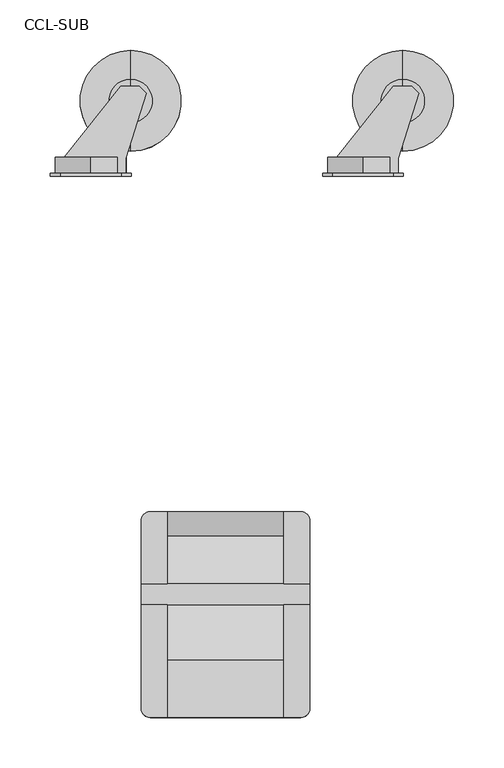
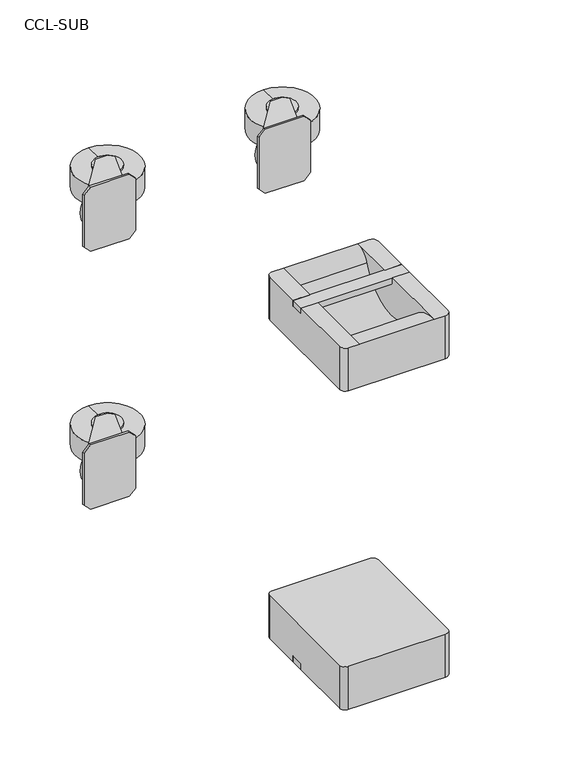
"""IFC4 building model written with IfcOpenShell, lengths in millimetres: proxy geometry, d&b CL-Series CCL-SUB : CCL-SUB."""

from ifc_helpers import new_model, si_unit, frame, origin, place, context, project, spatial, polyline, circle_curve, outline, extrude, source, transform, mapped, element, save
from ifc_brep_helpers import plane_surface, cylinder_surface, revolved_surface, advanced_brep


def ccl_sub_53e2f06a(model_context):
    return source(origin(), model_context, "Body", "SolidModel", [
        advanced_brep(
        [(2365.000038, 668.4505973, 595.3228617), (2391.3818499, 668.4505973, 583.3228617), (2338.9218509, 668.4505973, 583.3228617), (2338.9218509, 668.4505973, 580.3228617), (2393.7228512, 668.4505973, 580.3228617), (2393.7228512, 668.4505973, 540.3228617), (2338.9218509, 668.4505973, 540.3228617), (2338.9218509, 668.4505973, 537.3228617), (2391.3818499, 668.4505973, 537.3228617), (2365.000038, 668.4505973, 525.3228617), (2365.000038, 652.4505973, 525.3228617), (2391.3818499, 652.4505973, 537.3228617), (2399.82476, 652.4505973, 537.3228617), (2399.82476, 652.4505973, 540.3228617), (2393.7228512, 652.4505973, 540.3228617), (2393.7228512, 652.4505973, 580.3228617), (2399.82476, 652.4505973, 580.3228617), (2399.82476, 652.4505973, 583.3228617), (2391.3818499, 652.4505973, 583.3228617), (2365.000038, 652.4505973, 595.3228617), (2399.82476, 667.1505973, 583.3228617), (2420.000038, 731.6505973, 583.3228617), (2413.000038, 738.6505973, 583.3228617), (2394.8735756, 738.6505973, 583.3228617), (2394.8735756, 738.6505973, 580.3228617), (2413.000038, 738.6505973, 580.3228617), (2420.000038, 731.6505973, 580.3228617), (2399.82476, 667.1505973, 580.3228617), (2394.8735756, 738.6505973, 537.3228617), (2413.000038, 738.6505973, 537.3228617), (2420.000038, 731.6505973, 537.3228617), (2399.82476, 667.1505973, 537.3228617), (2399.82476, 667.1505973, 540.3228617), (2420.000038, 731.6505973, 540.3228617), (2413.000038, 738.6505973, 540.3228617), (2394.8735756, 738.6505973, 540.3228617)],
        [
            (0, 1, circle_curve(frame((2365.000038, 668.4505973, 560.3228617), z_axis=(0.0, 1.0, 0.0), x_axis=(0.0, 0.0, 1.0)), 35.0)),
            (1, 2),
            (2, 3),
            (3, 4),
            (4, 5, circle_curve(frame((2365.000038, 668.4505973, 560.3228617), z_axis=(0.0, 1.0, 0.0), x_axis=(0.0, 0.0, 1.0)), 35.0)),
            (5, 6),
            (6, 7),
            (7, 8),
            (8, 9, circle_curve(frame((2365.000038, 668.4505973, 560.3228617), z_axis=(0.0, 1.0, 0.0), x_axis=(0.0, 0.0, 1.0)), 35.0)),
            (9, 0, circle_curve(frame((2365.000038, 668.4505973, 560.3228617), z_axis=(0.0, 1.0, 0.0), x_axis=(0.0, 0.0, 1.0)), 35.0)),
            (10, 11, circle_curve(frame((2365.000038, 652.4505973, 560.3228617), z_axis=(0.0, -1.0, 0.0), x_axis=(0.0, 0.0, 1.0)), 35.0)),
            (11, 12),
            (12, 13),
            (13, 14),
            (14, 15, circle_curve(frame((2365.000038, 652.4505973, 560.3228617), z_axis=(0.0, -1.0, 0.0), x_axis=(0.0, 0.0, 1.0)), 35.0)),
            (15, 16),
            (16, 17),
            (17, 18),
            (18, 19, circle_curve(frame((2365.000038, 652.4505973, 560.3228617), z_axis=(0.0, -1.0, 0.0), x_axis=(0.0, 0.0, 1.0)), 35.0)),
            (19, 10, circle_curve(frame((2365.000038, 652.4505973, 560.3228617), z_axis=(0.0, -1.0, 0.0), x_axis=(0.0, 0.0, 1.0)), 35.0)),
            (8, 11),
            (10, 9),
            (14, 5),
            (4, 15),
            (18, 1),
            (0, 19),
            (17, 20),
            (20, 21),
            (21, 22),
            (22, 23),
            (23, 2),
            (3, 24),
            (24, 25),
            (25, 26),
            (26, 27),
            (27, 16),
            (23, 24),
            (22, 25),
            (21, 26),
            (20, 27),
            (7, 28),
            (28, 29),
            (29, 30),
            (30, 31),
            (31, 12),
            (13, 32),
            (32, 33),
            (33, 34),
            (34, 35),
            (35, 6),
            (35, 28),
            (34, 29),
            (33, 30),
            (32, 31),
        ],
        [
            plane_surface(frame((2365.000038, 668.4505973, 595.3228617), z_axis=(0.0, 1.0, 0.0), x_axis=(-1.0, 0.0, 0.0))),
            plane_surface(frame((2365.000038, 652.4505973, 595.3228617), z_axis=(0.0, -1.0, 0.0), x_axis=(1.0, 0.0, 0.0))),
            cylinder_surface(frame((2365.000038, 652.4505973, 560.3228617), z_axis=(0.0, 1.0, 0.0), x_axis=(0.0, 0.0, 1.0)), 35.0),
            plane_surface(frame((2381.8577772, 722.3202866, 583.3228617), z_axis=(0.0, 0.0, 1.0000000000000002), x_axis=(0.6232793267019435, 0.7819992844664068, 0.0))),
            plane_surface(frame((2381.8577772, 722.3202866, 580.3228617), z_axis=(0.0, 0.0, -1.0000000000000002), x_axis=(-0.6232793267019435, -0.7819992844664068, 0.0))),
            plane_surface(frame((2338.9218509, 668.4505973, 583.3228617), z_axis=(-0.7819992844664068, 0.6232793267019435, 0.0), x_axis=(0.0, 0.0, -1.0))),
            plane_surface(frame((2394.8735756, 738.6505973, 583.3228617), z_axis=(0.0, 1.0, 0.0), x_axis=(0.0, 0.0, -1.0))),
            plane_surface(frame((2413.000038, 738.6505973, 583.3228617), z_axis=(0.7071067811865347, 0.7071067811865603, 0.0), x_axis=(0.0, 0.0, -1.0))),
            plane_surface(frame((2420.000038, 731.6505973, 583.3228617), z_axis=(0.9543997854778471, -0.29853148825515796, 0.0), x_axis=(0.0, 0.0, -1.0))),
            plane_surface(frame((2399.82476, 667.1505973, 583.3228617), z_axis=(1.0, 0.0, 0.0), x_axis=(0.0, 0.0, -1.0))),
            plane_surface(frame((2338.9218509, 668.4505973, 537.3228617), z_axis=(0.0, 0.0, -1.0), x_axis=(0.0, -1.0, 0.0))),
            plane_surface(frame((2338.9218509, 668.4505973, 540.3228617), z_axis=(0.0, 0.0, 1.0), x_axis=(0.0, 1.0, 0.0))),
            plane_surface(frame((2394.8735756, 738.6505973, 537.3228617), z_axis=(-0.7819992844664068, 0.6232793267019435, 0.0), x_axis=(0.0, 0.0, 1.0))),
            plane_surface(frame((2413.000038, 738.6505973, 537.3228617), z_axis=(0.0, 1.0, 0.0), x_axis=(0.0, 0.0, 1.0))),
            plane_surface(frame((2420.000038, 731.6505973, 537.3228617), z_axis=(0.7071067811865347, 0.7071067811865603, 0.0), x_axis=(0.0, 0.0, 1.0))),
            plane_surface(frame((2399.82476, 667.1505973, 537.3228617), z_axis=(0.9543997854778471, -0.29853148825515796, 0.0), x_axis=(0.0, 0.0, 1.0))),
            plane_surface(frame((2399.82476, 652.4505973, 537.3228617), z_axis=(1.0, 0.0, 0.0), x_axis=(0.0, 0.0, 1.0))),
        ],
        [
            (0, [[1, 2, 3, 4, 5, 6, 7, 8, 9, 10]]),
            (1, [[11, 12, 13, 14, 15, 16, 17, 18, 19, 20]]),
            (2, [[-9, 21, -11, 22]]),
            (2, [[-15, 23, -5, 24]]),
            (2, [[-19, 25, -1, 26]]),
            (2, [[-22, -20, -26, -10]]),
            (3, [[-2, -25, -18, 27, 28, 29, 30, 31]]),
            (4, [[-16, -24, -4, 32, 33, 34, 35, 36]]),
            (5, [[37, -32, -3, -31]]),
            (6, [[38, -33, -37, -30]]),
            (7, [[39, -34, -38, -29]]),
            (8, [[40, -35, -39, -28]]),
            (9, [[-17, -36, -40, -27]]),
            (10, [[-12, -21, -8, 41, 42, 43, 44, 45]]),
            (11, [[-6, -23, -14, 46, 47, 48, 49, 50]]),
            (12, [[-7, -50, 51, -41]]),
            (13, [[-51, -49, 52, -42]]),
            (14, [[-52, -48, 53, -43]]),
            (15, [[-53, -47, 54, -44]]),
            (16, [[-54, -46, -13, -45]]),
        ],
    ),
        extrude(outline(polyline([(517.8228997, 2325.0), (507.8228617, 2335.000038), (507.8228617, 2395.000038), (517.8228997, 2405.000076), (602.8228237, 2405.000076), (612.8228617, 2395.000038), (612.8228617, 2335.000038), (602.8228237, 2325.0), (517.8228997, 2325.0)])), frame((0.0, 649.4505973, 0.0), z_axis=(0.0, 1.0, 0.0), x_axis=(0.0, 0.0, 1.0)), (0.0, 0.0, 1.0), 3.0),
        advanced_brep(
        [(2404.5321133, 674.1067763, 576.9996195), (2404.5321133, 674.1067763, 543.6461039), (2404.5321133, 774.1067763, 543.6461039), (2404.5321133, 774.1067763, 576.9996195), (2404.5321133, 702.693179, 576.9996195), (2404.5321133, 745.5203735, 576.9996195), (2404.5321133, 702.693179, 580.3228617), (2404.5321133, 745.5203735, 580.3228617), (2404.5321133, 724.1067763, 580.3228617), (2404.5321133, 702.693179, 540.3228617), (2404.5321133, 724.1067763, 540.3228617), (2404.5321133, 745.5203735, 540.3228617), (2404.5321133, 702.693179, 543.6461039), (2404.5321133, 745.5203735, 543.6461039)],
        [
            (0, 1),
            (1, 2, circle_curve(frame((2404.5321133, 724.1067763, 543.6461039), z_axis=(0.0, 0.0, 1.0), x_axis=(0.0, 1.0, 0.0)), 50.0)),
            (2, 3),
            (3, 0, circle_curve(frame((2404.5321133, 724.1067763, 576.9996195), z_axis=(0.0, 0.0, -1.0), x_axis=(0.0, 1.0, 0.0)), 50.0)),
            (2, 1, circle_curve(frame((2404.5321133, 724.1067763, 543.6461039), z_axis=(0.0, 0.0, 1.0), x_axis=(0.0, 1.0, 0.0)), 50.0)),
            (0, 3, circle_curve(frame((2404.5321133, 724.1067763, 576.9996195), z_axis=(0.0, 0.0, -1.0), x_axis=(0.0, 1.0, 0.0)), 50.0)),
            (4, 0),
            (3, 5),
            (5, 4, circle_curve(frame((2404.5321133, 724.1067763, 576.9996195), z_axis=(0.0, 0.0, -1.0), x_axis=(0.0, 1.0, 0.0)), 21.4135972)),
            (4, 5, circle_curve(frame((2404.5321133, 724.1067763, 576.9996195), z_axis=(0.0, 0.0, -1.0), x_axis=(0.0, 1.0, 0.0)), 21.4135972)),
            (6, 4),
            (5, 7),
            (7, 6, circle_curve(frame((2404.5321133, 724.1067763, 580.3228617), z_axis=(0.0, 0.0, -1.0), x_axis=(0.0, 1.0, 0.0)), 21.4135972)),
            (6, 7, circle_curve(frame((2404.5321133, 724.1067763, 580.3228617), z_axis=(0.0, 0.0, -1.0), x_axis=(0.0, 1.0, 0.0)), 21.4135972)),
            (8, 6),
            (7, 8),
            (9, 10),
            (10, 11),
            (11, 9, circle_curve(frame((2404.5321133, 724.1067763, 540.3228617), z_axis=(0.0, 0.0, -1.0), x_axis=(0.0, 1.0, 0.0)), 21.4135972)),
            (9, 11, circle_curve(frame((2404.5321133, 724.1067763, 540.3228617), z_axis=(0.0, 0.0, -1.0), x_axis=(0.0, 1.0, 0.0)), 21.4135972)),
            (12, 9),
            (11, 13),
            (13, 12, circle_curve(frame((2404.5321133, 724.1067763, 543.6461039), z_axis=(0.0, 0.0, -1.0), x_axis=(0.0, 1.0, 0.0)), 21.4135972)),
            (12, 13, circle_curve(frame((2404.5321133, 724.1067763, 543.6461039), z_axis=(0.0, 0.0, -1.0), x_axis=(0.0, 1.0, 0.0)), 21.4135972)),
            (1, 12),
            (13, 2),
        ],
        [
            cylinder_surface(frame((2404.5321133, 724.1067763, 603.2661159), z_axis=(0.0, 0.0, 1.0), x_axis=(0.0, 1.0, 0.0)), 50.0),
            plane_surface(frame((2404.5321133, 724.1067763, 576.9996195), z_axis=(0.0, 0.0, 1.0), x_axis=(0.0, 1.0, 0.0))),
            cylinder_surface(frame((2404.5321133, 724.1067763, 603.2661159), z_axis=(0.0, 0.0, 1.0), x_axis=(0.0, 1.0, 0.0)), 21.4135972),
            plane_surface(frame((2404.5321133, 724.1067763, 580.3228617), z_axis=(0.0, 0.0, 1.0), x_axis=(0.0, 1.0, 0.0))),
            plane_surface(frame((2404.5321133, 724.1067763, 540.3228617), z_axis=(0.0, 0.0, -1.0), x_axis=(0.0, 1.0, 0.0))),
            plane_surface(frame((2404.5321133, 724.1067763, 543.6461039), z_axis=(0.0, 0.0, -1.0), x_axis=(0.0, 1.0, 0.0))),
        ],
        [
            (0, [[1, 2, 3, 4]]),
            (0, [[-3, 5, -1, 6]]),
            (1, [[7, -4, 8, 9]]),
            (1, [[-8, -6, -7, 10]]),
            (2, [[11, -9, 12, 13]]),
            (2, [[-12, -10, -11, 14]]),
            (3, [[15, -13, 16]]),
            (3, [[-16, -14, -15]]),
            (4, [[17, 18, 19]]),
            (4, [[-18, -17, 20]]),
            (2, [[21, -19, 22, 23]]),
            (2, [[-22, -20, -21, 24]]),
            (5, [[25, -23, 26, -2]]),
            (5, [[-26, -24, -25, -5]]),
        ],
    ),
        advanced_brep(
        [(2635.000038, 668.4505973, 595.3228617), (2661.3818499, 668.4505973, 583.3228617), (2608.9218509, 668.4505973, 583.3228617), (2608.9218509, 668.4505973, 580.3228617), (2663.7228512, 668.4505973, 580.3228617), (2663.7228512, 668.4505973, 540.3228617), (2608.9218509, 668.4505973, 540.3228617), (2608.9218509, 668.4505973, 537.3228617), (2661.3818499, 668.4505973, 537.3228617), (2635.000038, 668.4505973, 525.3228617), (2635.000038, 652.4505973, 525.3228617), (2661.3818499, 652.4505973, 537.3228617), (2669.82476, 652.4505973, 537.3228617), (2669.82476, 652.4505973, 540.3228617), (2663.7228512, 652.4505973, 540.3228617), (2663.7228512, 652.4505973, 580.3228617), (2669.82476, 652.4505973, 580.3228617), (2669.82476, 652.4505973, 583.3228617), (2661.3818499, 652.4505973, 583.3228617), (2635.000038, 652.4505973, 595.3228617), (2669.82476, 667.1505973, 583.3228617), (2690.000038, 731.6505973, 583.3228617), (2683.000038, 738.6505973, 583.3228617), (2664.8735756, 738.6505973, 583.3228617), (2664.8735756, 738.6505973, 580.3228617), (2683.000038, 738.6505973, 580.3228617), (2690.000038, 731.6505973, 580.3228617), (2669.82476, 667.1505973, 580.3228617), (2664.8735756, 738.6505973, 537.3228617), (2683.000038, 738.6505973, 537.3228617), (2690.000038, 731.6505973, 537.3228617), (2669.82476, 667.1505973, 537.3228617), (2669.82476, 667.1505973, 540.3228617), (2690.000038, 731.6505973, 540.3228617), (2683.000038, 738.6505973, 540.3228617), (2664.8735756, 738.6505973, 540.3228617)],
        [
            (0, 1, circle_curve(frame((2635.000038, 668.4505973, 560.3228617), z_axis=(0.0, 1.0, 0.0), x_axis=(0.0, 0.0, 1.0)), 35.0)),
            (1, 2),
            (2, 3),
            (3, 4),
            (4, 5, circle_curve(frame((2635.000038, 668.4505973, 560.3228617), z_axis=(0.0, 1.0, 0.0), x_axis=(0.0, 0.0, 1.0)), 35.0)),
            (5, 6),
            (6, 7),
            (7, 8),
            (8, 9, circle_curve(frame((2635.000038, 668.4505973, 560.3228617), z_axis=(0.0, 1.0, 0.0), x_axis=(0.0, 0.0, 1.0)), 35.0)),
            (9, 0, circle_curve(frame((2635.000038, 668.4505973, 560.3228617), z_axis=(0.0, 1.0, 0.0), x_axis=(0.0, 0.0, 1.0)), 35.0)),
            (10, 11, circle_curve(frame((2635.000038, 652.4505973, 560.3228617), z_axis=(0.0, -1.0, 0.0), x_axis=(0.0, 0.0, 1.0)), 35.0)),
            (11, 12),
            (12, 13),
            (13, 14),
            (14, 15, circle_curve(frame((2635.000038, 652.4505973, 560.3228617), z_axis=(0.0, -1.0, 0.0), x_axis=(0.0, 0.0, 1.0)), 35.0)),
            (15, 16),
            (16, 17),
            (17, 18),
            (18, 19, circle_curve(frame((2635.000038, 652.4505973, 560.3228617), z_axis=(0.0, -1.0, 0.0), x_axis=(0.0, 0.0, 1.0)), 35.0)),
            (19, 10, circle_curve(frame((2635.000038, 652.4505973, 560.3228617), z_axis=(0.0, -1.0, 0.0), x_axis=(0.0, 0.0, 1.0)), 35.0)),
            (8, 11),
            (10, 9),
            (14, 5),
            (4, 15),
            (18, 1),
            (0, 19),
            (17, 20),
            (20, 21),
            (21, 22),
            (22, 23),
            (23, 2),
            (3, 24),
            (24, 25),
            (25, 26),
            (26, 27),
            (27, 16),
            (23, 24),
            (22, 25),
            (21, 26),
            (20, 27),
            (7, 28),
            (28, 29),
            (29, 30),
            (30, 31),
            (31, 12),
            (13, 32),
            (32, 33),
            (33, 34),
            (34, 35),
            (35, 6),
            (35, 28),
            (34, 29),
            (33, 30),
            (32, 31),
        ],
        [
            plane_surface(frame((2635.000038, 668.4505973, 595.3228617), z_axis=(0.0, 1.0, 0.0), x_axis=(-1.0, 0.0, 0.0))),
            plane_surface(frame((2635.000038, 652.4505973, 595.3228617), z_axis=(0.0, -1.0, 0.0), x_axis=(1.0, 0.0, 0.0))),
            cylinder_surface(frame((2635.000038, 652.4505973, 560.3228617), z_axis=(0.0, 1.0, 0.0), x_axis=(0.0, 0.0, 1.0)), 35.0),
            plane_surface(frame((2651.8577772, 722.3202866, 583.3228617), z_axis=(0.0, 0.0, 1.0000000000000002), x_axis=(0.6232793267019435, 0.7819992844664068, 0.0))),
            plane_surface(frame((2651.8577772, 722.3202866, 580.3228617), z_axis=(0.0, 0.0, -1.0000000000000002), x_axis=(-0.6232793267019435, -0.7819992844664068, 0.0))),
            plane_surface(frame((2608.9218509, 668.4505973, 583.3228617), z_axis=(-0.7819992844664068, 0.6232793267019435, 0.0), x_axis=(0.0, 0.0, -1.0))),
            plane_surface(frame((2664.8735756, 738.6505973, 583.3228617), z_axis=(0.0, 1.0, 0.0), x_axis=(0.0, 0.0, -1.0))),
            plane_surface(frame((2683.000038, 738.6505973, 583.3228617), z_axis=(0.7071067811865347, 0.7071067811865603, 0.0), x_axis=(0.0, 0.0, -1.0))),
            plane_surface(frame((2690.000038, 731.6505973, 583.3228617), z_axis=(0.9543997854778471, -0.29853148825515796, 0.0), x_axis=(0.0, 0.0, -1.0))),
            plane_surface(frame((2669.82476, 667.1505973, 583.3228617), z_axis=(1.0, 0.0, 0.0), x_axis=(0.0, 0.0, -1.0))),
            plane_surface(frame((2608.9218509, 668.4505973, 537.3228617), z_axis=(0.0, 0.0, -1.0), x_axis=(0.0, -1.0, 0.0))),
            plane_surface(frame((2608.9218509, 668.4505973, 540.3228617), z_axis=(0.0, 0.0, 1.0), x_axis=(0.0, 1.0, 0.0))),
            plane_surface(frame((2664.8735756, 738.6505973, 537.3228617), z_axis=(-0.7819992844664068, 0.6232793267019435, 0.0), x_axis=(0.0, 0.0, 1.0))),
            plane_surface(frame((2683.000038, 738.6505973, 537.3228617), z_axis=(0.0, 1.0, 0.0), x_axis=(0.0, 0.0, 1.0))),
            plane_surface(frame((2690.000038, 731.6505973, 537.3228617), z_axis=(0.7071067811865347, 0.7071067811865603, 0.0), x_axis=(0.0, 0.0, 1.0))),
            plane_surface(frame((2669.82476, 667.1505973, 537.3228617), z_axis=(0.9543997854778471, -0.29853148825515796, 0.0), x_axis=(0.0, 0.0, 1.0))),
            plane_surface(frame((2669.82476, 652.4505973, 537.3228617), z_axis=(1.0, 0.0, 0.0), x_axis=(0.0, 0.0, 1.0))),
        ],
        [
            (0, [[1, 2, 3, 4, 5, 6, 7, 8, 9, 10]]),
            (1, [[11, 12, 13, 14, 15, 16, 17, 18, 19, 20]]),
            (2, [[-9, 21, -11, 22]]),
            (2, [[-15, 23, -5, 24]]),
            (2, [[-19, 25, -1, 26]]),
            (2, [[-22, -20, -26, -10]]),
            (3, [[-2, -25, -18, 27, 28, 29, 30, 31]]),
            (4, [[-16, -24, -4, 32, 33, 34, 35, 36]]),
            (5, [[37, -32, -3, -31]]),
            (6, [[38, -33, -37, -30]]),
            (7, [[39, -34, -38, -29]]),
            (8, [[40, -35, -39, -28]]),
            (9, [[-17, -36, -40, -27]]),
            (10, [[-12, -21, -8, 41, 42, 43, 44, 45]]),
            (11, [[-6, -23, -14, 46, 47, 48, 49, 50]]),
            (12, [[-7, -50, 51, -41]]),
            (13, [[-51, -49, 52, -42]]),
            (14, [[-52, -48, 53, -43]]),
            (15, [[-53, -47, 54, -44]]),
            (16, [[-54, -46, -13, -45]]),
        ],
    ),
        extrude(outline(polyline([(517.8228997, 2595.0), (507.8228617, 2605.000038), (507.8228617, 2665.000038), (517.8228997, 2675.000076), (602.8228237, 2675.000076), (612.8228617, 2665.000038), (612.8228617, 2605.000038), (602.8228237, 2595.0), (517.8228997, 2595.0)])), frame((0.0, 649.4505973, 0.0), z_axis=(0.0, 1.0, 0.0), x_axis=(0.0, 0.0, 1.0)), (0.0, 0.0, 1.0), 3.0),
        advanced_brep(
        [(2674.5321133, 674.1067763, 576.9996195), (2674.5321133, 674.1067763, 543.6461039), (2674.5321133, 774.1067763, 543.6461039), (2674.5321133, 774.1067763, 576.9996195), (2674.5321133, 702.693179, 576.9996195), (2674.5321133, 745.5203735, 576.9996195), (2674.5321133, 702.693179, 580.3228617), (2674.5321133, 745.5203735, 580.3228617), (2674.5321133, 724.1067763, 580.3228617), (2674.5321133, 702.693179, 540.3228617), (2674.5321133, 724.1067763, 540.3228617), (2674.5321133, 745.5203735, 540.3228617), (2674.5321133, 702.693179, 543.6461039), (2674.5321133, 745.5203735, 543.6461039)],
        [
            (0, 1),
            (1, 2, circle_curve(frame((2674.5321133, 724.1067763, 543.6461039), z_axis=(0.0, 0.0, 1.0), x_axis=(0.0, 1.0, 0.0)), 50.0)),
            (2, 3),
            (3, 0, circle_curve(frame((2674.5321133, 724.1067763, 576.9996195), z_axis=(0.0, 0.0, -1.0), x_axis=(0.0, 1.0, 0.0)), 50.0)),
            (2, 1, circle_curve(frame((2674.5321133, 724.1067763, 543.6461039), z_axis=(0.0, 0.0, 1.0), x_axis=(0.0, 1.0, 0.0)), 50.0)),
            (0, 3, circle_curve(frame((2674.5321133, 724.1067763, 576.9996195), z_axis=(0.0, 0.0, -1.0), x_axis=(0.0, 1.0, 0.0)), 50.0)),
            (4, 0),
            (3, 5),
            (5, 4, circle_curve(frame((2674.5321133, 724.1067763, 576.9996195), z_axis=(0.0, 0.0, -1.0), x_axis=(0.0, 1.0, 0.0)), 21.4135972)),
            (4, 5, circle_curve(frame((2674.5321133, 724.1067763, 576.9996195), z_axis=(0.0, 0.0, -1.0), x_axis=(0.0, 1.0, 0.0)), 21.4135972)),
            (6, 4),
            (5, 7),
            (7, 6, circle_curve(frame((2674.5321133, 724.1067763, 580.3228617), z_axis=(0.0, 0.0, -1.0), x_axis=(0.0, 1.0, 0.0)), 21.4135972)),
            (6, 7, circle_curve(frame((2674.5321133, 724.1067763, 580.3228617), z_axis=(0.0, 0.0, -1.0), x_axis=(0.0, 1.0, 0.0)), 21.4135972)),
            (8, 6),
            (7, 8),
            (9, 10),
            (10, 11),
            (11, 9, circle_curve(frame((2674.5321133, 724.1067763, 540.3228617), z_axis=(0.0, 0.0, -1.0), x_axis=(0.0, 1.0, 0.0)), 21.4135972)),
            (9, 11, circle_curve(frame((2674.5321133, 724.1067763, 540.3228617), z_axis=(0.0, 0.0, -1.0), x_axis=(0.0, 1.0, 0.0)), 21.4135972)),
            (12, 9),
            (11, 13),
            (13, 12, circle_curve(frame((2674.5321133, 724.1067763, 543.6461039), z_axis=(0.0, 0.0, -1.0), x_axis=(0.0, 1.0, 0.0)), 21.4135972)),
            (12, 13, circle_curve(frame((2674.5321133, 724.1067763, 543.6461039), z_axis=(0.0, 0.0, -1.0), x_axis=(0.0, 1.0, 0.0)), 21.4135972)),
            (1, 12),
            (13, 2),
        ],
        [
            cylinder_surface(frame((2674.5321133, 724.1067763, 603.2661159), z_axis=(0.0, 0.0, 1.0), x_axis=(0.0, 1.0, 0.0)), 50.0),
            plane_surface(frame((2674.5321133, 724.1067763, 576.9996195), z_axis=(0.0, 0.0, 1.0), x_axis=(0.0, 1.0, 0.0))),
            cylinder_surface(frame((2674.5321133, 724.1067763, 603.2661159), z_axis=(0.0, 0.0, 1.0), x_axis=(0.0, 1.0, 0.0)), 21.4135972),
            plane_surface(frame((2674.5321133, 724.1067763, 580.3228617), z_axis=(0.0, 0.0, 1.0), x_axis=(0.0, 1.0, 0.0))),
            plane_surface(frame((2674.5321133, 724.1067763, 540.3228617), z_axis=(0.0, 0.0, -1.0), x_axis=(0.0, 1.0, 0.0))),
            plane_surface(frame((2674.5321133, 724.1067763, 543.6461039), z_axis=(0.0, 0.0, -1.0), x_axis=(0.0, 1.0, 0.0))),
        ],
        [
            (0, [[1, 2, 3, 4]]),
            (0, [[-3, 5, -1, 6]]),
            (1, [[7, -4, 8, 9]]),
            (1, [[-8, -6, -7, 10]]),
            (2, [[11, -9, 12, 13]]),
            (2, [[-12, -10, -11, 14]]),
            (3, [[15, -13, 16]]),
            (3, [[-16, -14, -15]]),
            (4, [[17, 18, 19]]),
            (4, [[-18, -17, 20]]),
            (2, [[21, -19, 22, 23]]),
            (2, [[-22, -20, -21, 24]]),
            (5, [[25, -23, 26, -2]]),
            (5, [[-26, -24, -25, -5]]),
        ],
    ),
        advanced_brep(
        [(2365.000038, 668.4505973, 104.6771383), (2365.000038, 668.4505973, 174.6771383), (2391.3818499, 668.4505973, 162.6771383), (2338.9218509, 668.4505973, 162.6771383), (2338.9218509, 668.4505973, 159.6771383), (2393.7228512, 668.4505973, 159.6771383), (2393.7228512, 668.4505973, 119.6771383), (2338.9218509, 668.4505973, 119.6771383), (2338.9218509, 668.4505973, 116.6771383), (2391.3818499, 668.4505973, 116.6771383), (2365.000038, 652.4505973, 174.6771383), (2365.000038, 652.4505973, 104.6771383), (2391.3818499, 652.4505973, 116.6771383), (2399.82476, 652.4505973, 116.6771383), (2399.82476, 652.4505973, 119.6771383), (2393.7228512, 652.4505973, 119.6771383), (2393.7228512, 652.4505973, 159.6771383), (2399.82476, 652.4505973, 159.6771383), (2399.82476, 652.4505973, 162.6771383), (2391.3818499, 652.4505973, 162.6771383), (2394.8735756, 738.6505973, 116.6771383), (2413.000038, 738.6505973, 116.6771383), (2420.000038, 731.6505973, 116.6771383), (2399.82476, 667.1505973, 116.6771383), (2399.82476, 667.1505973, 119.6771383), (2420.000038, 731.6505973, 119.6771383), (2413.000038, 738.6505973, 119.6771383), (2394.8735756, 738.6505973, 119.6771383), (2399.82476, 667.1505973, 162.6771383), (2420.000038, 731.6505973, 162.6771383), (2413.000038, 738.6505973, 162.6771383), (2394.8735756, 738.6505973, 162.6771383), (2394.8735756, 738.6505973, 159.6771383), (2413.000038, 738.6505973, 159.6771383), (2420.000038, 731.6505973, 159.6771383), (2399.82476, 667.1505973, 159.6771383)],
        [
            (0, 1, circle_curve(frame((2365.000038, 668.4505973, 139.6771383), z_axis=(0.0, 1.0, 0.0), x_axis=(0.0, 0.0, -1.0)), 35.0)),
            (1, 2, circle_curve(frame((2365.000038, 668.4505973, 139.6771383), z_axis=(0.0, 1.0, 0.0), x_axis=(0.0, 0.0, -1.0)), 35.0)),
            (2, 3),
            (3, 4),
            (4, 5),
            (5, 6, circle_curve(frame((2365.000038, 668.4505973, 139.6771383), z_axis=(0.0, 1.0, 0.0), x_axis=(0.0, 0.0, -1.0)), 35.0)),
            (6, 7),
            (7, 8),
            (8, 9),
            (9, 0, circle_curve(frame((2365.000038, 668.4505973, 139.6771383), z_axis=(0.0, 1.0, 0.0), x_axis=(0.0, 0.0, -1.0)), 35.0)),
            (10, 11, circle_curve(frame((2365.000038, 652.4505973, 139.6771383), z_axis=(0.0, -1.0, 0.0), x_axis=(0.0, 0.0, -1.0)), 35.0)),
            (11, 12, circle_curve(frame((2365.000038, 652.4505973, 139.6771383), z_axis=(0.0, -1.0, 0.0), x_axis=(0.0, 0.0, -1.0)), 35.0)),
            (12, 13),
            (13, 14),
            (14, 15),
            (15, 16, circle_curve(frame((2365.000038, 652.4505973, 139.6771383), z_axis=(0.0, -1.0, 0.0), x_axis=(0.0, 0.0, -1.0)), 35.0)),
            (16, 17),
            (17, 18),
            (18, 19),
            (19, 10, circle_curve(frame((2365.000038, 652.4505973, 139.6771383), z_axis=(0.0, -1.0, 0.0), x_axis=(0.0, 0.0, -1.0)), 35.0)),
            (1, 10),
            (19, 2),
            (15, 6),
            (5, 16),
            (11, 0),
            (9, 12),
            (8, 20),
            (20, 21),
            (21, 22),
            (22, 23),
            (23, 13),
            (14, 24),
            (24, 25),
            (25, 26),
            (26, 27),
            (27, 7),
            (27, 20),
            (26, 21),
            (25, 22),
            (24, 23),
            (18, 28),
            (28, 29),
            (29, 30),
            (30, 31),
            (31, 3),
            (4, 32),
            (32, 33),
            (33, 34),
            (34, 35),
            (35, 17),
            (31, 32),
            (30, 33),
            (29, 34),
            (28, 35),
        ],
        [
            plane_surface(frame((2365.000038, 668.4505973, 104.6771383), z_axis=(0.0, 1.0, 0.0), x_axis=(-1.0, 0.0, 0.0))),
            plane_surface(frame((2365.000038, 652.4505973, 104.6771383), z_axis=(0.0, -1.0, 0.0), x_axis=(1.0, 0.0, 0.0))),
            cylinder_surface(frame((2365.000038, 652.4505973, 139.6771383), z_axis=(0.0, 1.0, 0.0), x_axis=(0.0, 0.0, -1.0)), 35.0),
            plane_surface(frame((2381.8577772, 722.3202866, 116.6771383), z_axis=(0.0, 0.0, -1.0000000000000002), x_axis=(0.6232793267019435, 0.7819992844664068, 0.0))),
            plane_surface(frame((2381.8577772, 722.3202866, 119.6771383), z_axis=(0.0, 0.0, 1.0000000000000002), x_axis=(-0.6232793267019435, -0.7819992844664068, 0.0))),
            plane_surface(frame((2338.9218509, 668.4505973, 116.6771383), z_axis=(-0.7819992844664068, 0.6232793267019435, 0.0), x_axis=(0.0, 0.0, 1.0))),
            plane_surface(frame((2394.8735756, 738.6505973, 116.6771383), z_axis=(0.0, 1.0, 0.0), x_axis=(0.0, 0.0, 1.0))),
            plane_surface(frame((2413.000038, 738.6505973, 116.6771383), z_axis=(0.7071067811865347, 0.7071067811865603, 0.0), x_axis=(0.0, 0.0, 1.0))),
            plane_surface(frame((2420.000038, 731.6505973, 116.6771383), z_axis=(0.9543997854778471, -0.29853148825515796, 0.0), x_axis=(0.0, 0.0, 1.0))),
            plane_surface(frame((2399.82476, 667.1505973, 116.6771383), z_axis=(1.0, 0.0, 0.0), x_axis=(0.0, 0.0, 1.0))),
            plane_surface(frame((2338.9218509, 668.4505973, 162.6771383), z_axis=(0.0, 0.0, 1.0), x_axis=(0.0, -1.0, 0.0))),
            plane_surface(frame((2338.9218509, 668.4505973, 159.6771383), z_axis=(0.0, 0.0, -1.0), x_axis=(0.0, 1.0, 0.0))),
            plane_surface(frame((2394.8735756, 738.6505973, 162.6771383), z_axis=(-0.7819992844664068, 0.6232793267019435, 0.0), x_axis=(0.0, 0.0, -1.0))),
            plane_surface(frame((2413.000038, 738.6505973, 162.6771383), z_axis=(0.0, 1.0, 0.0), x_axis=(0.0, 0.0, -1.0))),
            plane_surface(frame((2420.000038, 731.6505973, 162.6771383), z_axis=(0.7071067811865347, 0.7071067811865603, 0.0), x_axis=(0.0, 0.0, -1.0))),
            plane_surface(frame((2399.82476, 667.1505973, 162.6771383), z_axis=(0.9543997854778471, -0.29853148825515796, 0.0), x_axis=(0.0, 0.0, -1.0))),
            plane_surface(frame((2399.82476, 652.4505973, 162.6771383), z_axis=(1.0, 0.0, 0.0), x_axis=(0.0, 0.0, -1.0))),
        ],
        [
            (0, [[1, 2, 3, 4, 5, 6, 7, 8, 9, 10]]),
            (1, [[11, 12, 13, 14, 15, 16, 17, 18, 19, 20]]),
            (2, [[21, -20, 22, -2]]),
            (2, [[23, -6, 24, -16]]),
            (2, [[25, -10, 26, -12]]),
            (2, [[-1, -25, -11, -21]]),
            (3, [[27, 28, 29, 30, 31, -13, -26, -9]]),
            (4, [[32, 33, 34, 35, 36, -7, -23, -15]]),
            (5, [[-27, -8, -36, 37]]),
            (6, [[-28, -37, -35, 38]]),
            (7, [[-29, -38, -34, 39]]),
            (8, [[-30, -39, -33, 40]]),
            (9, [[-31, -40, -32, -14]]),
            (10, [[41, 42, 43, 44, 45, -3, -22, -19]]),
            (11, [[46, 47, 48, 49, 50, -17, -24, -5]]),
            (12, [[-45, 51, -46, -4]]),
            (13, [[-44, 52, -47, -51]]),
            (14, [[-43, 53, -48, -52]]),
            (15, [[-42, 54, -49, -53]]),
            (16, [[-41, -18, -50, -54]]),
        ],
    ),
        extrude(outline(polyline([(182.1771003, 2325.0), (97.1771763, 2325.0), (87.1771383, 2335.000038), (87.1771383, 2395.000038), (97.1771763, 2405.000076), (182.1771003, 2405.000076), (192.1771383, 2395.000038), (192.1771383, 2335.000038), (182.1771003, 2325.0)])), frame((0.0, 649.4505973, 0.0), z_axis=(0.0, 1.0, 0.0), x_axis=(0.0, 0.0, 1.0)), (0.0, 0.0, 1.0), 3.0),
        advanced_brep(
        [(2404.5321133, 674.1067763, 123.0003805), (2404.5321133, 774.1067763, 123.0003805), (2404.5321133, 774.1067763, 156.3538961), (2404.5321133, 674.1067763, 156.3538961), (2404.5321133, 702.693179, 123.0003805), (2404.5321133, 745.5203735, 123.0003805), (2404.5321133, 702.693179, 119.6771383), (2404.5321133, 745.5203735, 119.6771383), (2404.5321133, 724.1067763, 119.6771383), (2404.5321133, 702.693179, 159.6771383), (2404.5321133, 745.5203735, 159.6771383), (2404.5321133, 724.1067763, 159.6771383), (2404.5321133, 702.693179, 156.3538961), (2404.5321133, 745.5203735, 156.3538961)],
        [
            (0, 1, circle_curve(frame((2404.5321133, 724.1067763, 123.0003805), z_axis=(0.0, 0.0, 1.0), x_axis=(0.0, 1.0, 0.0)), 50.0)),
            (1, 2),
            (2, 3, circle_curve(frame((2404.5321133, 724.1067763, 156.3538961), z_axis=(0.0, 0.0, -1.0), x_axis=(0.0, 1.0, 0.0)), 50.0)),
            (3, 0),
            (1, 0, circle_curve(frame((2404.5321133, 724.1067763, 123.0003805), z_axis=(0.0, 0.0, 1.0), x_axis=(0.0, 1.0, 0.0)), 50.0)),
            (3, 2, circle_curve(frame((2404.5321133, 724.1067763, 156.3538961), z_axis=(0.0, 0.0, -1.0), x_axis=(0.0, 1.0, 0.0)), 50.0)),
            (4, 5, circle_curve(frame((2404.5321133, 724.1067763, 123.0003805), z_axis=(0.0, 0.0, 1.0), x_axis=(0.0, 1.0, 0.0)), 21.4135972)),
            (5, 1),
            (0, 4),
            (5, 4, circle_curve(frame((2404.5321133, 724.1067763, 123.0003805), z_axis=(0.0, 0.0, 1.0), x_axis=(0.0, 1.0, 0.0)), 21.4135972)),
            (6, 7, circle_curve(frame((2404.5321133, 724.1067763, 119.6771383), z_axis=(0.0, 0.0, 1.0), x_axis=(0.0, 1.0, 0.0)), 21.4135972)),
            (7, 5),
            (4, 6),
            (7, 6, circle_curve(frame((2404.5321133, 724.1067763, 119.6771383), z_axis=(0.0, 0.0, 1.0), x_axis=(0.0, 1.0, 0.0)), 21.4135972)),
            (8, 7),
            (6, 8),
            (9, 10, circle_curve(frame((2404.5321133, 724.1067763, 159.6771383), z_axis=(0.0, 0.0, 1.0), x_axis=(0.0, 1.0, 0.0)), 21.4135972)),
            (10, 11),
            (11, 9),
            (10, 9, circle_curve(frame((2404.5321133, 724.1067763, 159.6771383), z_axis=(0.0, 0.0, 1.0), x_axis=(0.0, 1.0, 0.0)), 21.4135972)),
            (12, 13, circle_curve(frame((2404.5321133, 724.1067763, 156.3538961), z_axis=(0.0, 0.0, 1.0), x_axis=(0.0, 1.0, 0.0)), 21.4135972)),
            (13, 10),
            (9, 12),
            (13, 12, circle_curve(frame((2404.5321133, 724.1067763, 156.3538961), z_axis=(0.0, 0.0, 1.0), x_axis=(0.0, 1.0, 0.0)), 21.4135972)),
            (2, 13),
            (12, 3),
        ],
        [
            cylinder_surface(frame((2404.5321133, 724.1067763, 96.7338841), z_axis=(0.0, 0.0, -1.0), x_axis=(0.0, 1.0, 0.0)), 50.0),
            plane_surface(frame((2404.5321133, 724.1067763, 123.0003805), z_axis=(0.0, 0.0, -1.0), x_axis=(0.0, 1.0, 0.0))),
            cylinder_surface(frame((2404.5321133, 724.1067763, 96.7338841), z_axis=(0.0, 0.0, -1.0), x_axis=(0.0, 1.0, 0.0)), 21.4135972),
            plane_surface(frame((2404.5321133, 724.1067763, 119.6771383), z_axis=(0.0, 0.0, -1.0), x_axis=(0.0, 1.0, 0.0))),
            plane_surface(frame((2404.5321133, 724.1067763, 159.6771383), z_axis=(0.0, 0.0, 1.0), x_axis=(0.0, 1.0, 0.0))),
            plane_surface(frame((2404.5321133, 724.1067763, 156.3538961), z_axis=(0.0, 0.0, 1.0), x_axis=(0.0, 1.0, 0.0))),
        ],
        [
            (0, [[1, 2, 3, 4]]),
            (0, [[5, -4, 6, -2]]),
            (1, [[7, 8, -1, 9]]),
            (1, [[10, -9, -5, -8]]),
            (2, [[11, 12, -7, 13]]),
            (2, [[14, -13, -10, -12]]),
            (3, [[15, -11, 16]]),
            (3, [[-16, -14, -15]]),
            (4, [[17, 18, 19]]),
            (4, [[20, -19, -18]]),
            (2, [[21, 22, -17, 23]]),
            (2, [[24, -23, -20, -22]]),
            (5, [[-3, 25, -21, 26]]),
            (5, [[-6, -26, -24, -25]]),
        ],
    ),
        advanced_brep(
        [(2573.3, 112.7505973, 125.0), (2582.3, 121.7505973, 125.0), (2582.3, 307.7505973, 125.0), (2573.3, 316.7505973, 125.0), (2423.8, 316.7505973, 125.0), (2414.8, 307.7505973, 125.0), (2414.8, 121.7505973, 125.0), (2423.8, 112.7505973, 125.0), (2556.3, 316.7505973, 55.0), (2573.3, 316.7505973, 55.0), (2582.3, 307.7505973, 55.0), (2582.3, 245.4484339, 55.0), (2556.3, 245.4484339, 55.0), (2573.3, 112.7505973, 55.0), (2556.3, 112.7505973, 55.0), (2556.3, 224.6043444, 55.0), (2582.3, 224.6043444, 55.0), (2582.3, 121.7505973, 55.0), (2423.8, 112.7505973, 55.0), (2414.8, 121.7505973, 55.0), (2414.8, 224.6043444, 55.0), (2440.8, 224.6043444, 55.0), (2440.8, 112.7505973, 55.0), (2440.8, 316.7505973, 55.0), (2440.8, 245.4484339, 55.0), (2414.8, 245.4484339, 55.0), (2414.8, 307.7505973, 55.0), (2423.8, 316.7505973, 55.0), (2582.3, 224.6043444, 65.0), (2582.3, 245.4484339, 65.0), (2556.3, 224.6043444, 65.0), (2556.3, 245.4484339, 65.0), (2556.3, 169.7198126, 86.2028278), (2556.3, 292.8480463, 71.9361288), (2440.8, 224.6043444, 65.0), (2440.8, 245.4484339, 65.0), (2440.8, 292.8480463, 71.9361288), (2440.8, 169.7198126, 86.2028278), (2414.8, 224.6043444, 65.0), (2414.8, 245.4484339, 65.0)],
        [
            (0, 1, circle_curve(frame((2573.3, 121.7505973, 125.0), z_axis=(0.0, 0.0, 1.0), x_axis=(1.0, 0.0, 0.0)), 9.0)),
            (1, 2),
            (2, 3, circle_curve(frame((2573.3, 307.7505973, 125.0), z_axis=(0.0, 0.0, 1.0), x_axis=(1.0, 0.0, 0.0)), 9.0)),
            (3, 4),
            (4, 5, circle_curve(frame((2423.8, 307.7505973, 125.0), z_axis=(0.0, 0.0, 1.0), x_axis=(-1.0, 0.0, 0.0)), 9.0)),
            (5, 6),
            (6, 7, circle_curve(frame((2423.8, 121.7505973, 125.0), z_axis=(0.0, 0.0, 1.0), x_axis=(-1.0, 0.0, 0.0)), 9.0)),
            (7, 0),
            (8, 9),
            (9, 10, circle_curve(frame((2573.3, 307.7505973, 55.0), z_axis=(0.0, 0.0, -1.0), x_axis=(1.0, 0.0, 0.0)), 9.0)),
            (10, 11),
            (11, 12),
            (12, 8),
            (13, 14),
            (14, 15),
            (15, 16),
            (16, 17),
            (17, 13, circle_curve(frame((2573.3, 121.7505973, 55.0), z_axis=(0.0, 0.0, -1.0), x_axis=(1.0, 0.0, 0.0)), 9.0)),
            (18, 19, circle_curve(frame((2423.8, 121.7505973, 55.0), z_axis=(0.0, 0.0, -1.0), x_axis=(-1.0, 0.0, 0.0)), 9.0)),
            (19, 20),
            (20, 21),
            (21, 22),
            (22, 18),
            (23, 24),
            (24, 25),
            (25, 26),
            (26, 27, circle_curve(frame((2423.8, 307.7505973, 55.0), z_axis=(0.0, 0.0, -1.0), x_axis=(-1.0, 0.0, 0.0)), 9.0)),
            (27, 23),
            (0, 13),
            (17, 1),
            (10, 2),
            (16, 28),
            (28, 29),
            (29, 11),
            (9, 3),
            (8, 23),
            (27, 4),
            (7, 18),
            (22, 14),
            (15, 30),
            (30, 28),
            (12, 31),
            (31, 30),
            (14, 32, circle_curve(frame((2556.3, 112.7505973, 122.6077818), z_axis=(1.0, 0.0, 0.0), x_axis=(0.0, 0.0, 1.0)), 67.6077818)),
            (32, 33, circle_curve(frame((2556.3, 227.8093188, 49.081976), z_axis=(-1.0, 0.0, 0.0), x_axis=(0.0, 0.0, 1.0)), 68.9372786)),
            (33, 8, circle_curve(frame((2556.3, 316.7505973, 80.3353176), z_axis=(1.0, 0.0, 0.0), x_axis=(0.0, 0.0, 1.0)), 25.3353176)),
            (29, 31),
            (21, 34),
            (34, 35),
            (35, 24),
            (23, 36, circle_curve(frame((2440.8, 316.7505973, 80.3353176), z_axis=(-1.0, 0.0, 0.0), x_axis=(0.0, 0.0, 1.0)), 25.3353176)),
            (36, 37, circle_curve(frame((2440.8, 227.8093188, 49.081976), z_axis=(1.0, 0.0, 0.0), x_axis=(0.0, 0.0, 1.0)), 68.9372786)),
            (37, 22, circle_curve(frame((2440.8, 112.7505973, 122.6077818), z_axis=(-1.0, 0.0, 0.0), x_axis=(0.0, 0.0, 1.0)), 67.6077818)),
            (20, 38),
            (38, 34),
            (19, 6),
            (5, 26),
            (25, 39),
            (39, 38),
            (35, 39),
            (37, 32),
            (33, 36),
        ],
        [
            plane_surface(frame((2582.3, 121.7505973, 125.0), z_axis=(0.0, 0.0, 1.0), x_axis=(0.0, 1.0, 0.0))),
            plane_surface(frame((2582.3, 121.7505973, 55.0), z_axis=(0.0, 0.0, -1.0), x_axis=(0.0, -1.0, 0.0))),
            cylinder_surface(frame((2573.3, 121.7505973, 55.0), z_axis=(0.0, 0.0, 1.0), x_axis=(1.0, 0.0, 0.0)), 9.0),
            plane_surface(frame((2582.3, 121.7505973, 125.0), z_axis=(1.0, 0.0, 0.0), x_axis=(0.0, 0.0, -1.0))),
            cylinder_surface(frame((2573.3, 307.7505973, 55.0), z_axis=(0.0, 0.0, 1.0), x_axis=(1.0, 0.0, 0.0)), 9.0),
            plane_surface(frame((2573.3, 316.7505973, 125.0), z_axis=(0.0, 1.0, 0.0), x_axis=(0.0, 0.0, -1.0))),
            plane_surface(frame((2556.3, 112.7505973, 125.0), z_axis=(0.0, -1.0, 0.0), x_axis=(0.0, 0.0, -1.0))),
            plane_surface(frame((2582.3, 224.6043444, 125.0), z_axis=(0.0, 1.0, 0.0), x_axis=(0.0, 0.0, -1.0))),
            plane_surface(frame((2556.3, 224.6043444, 125.0), z_axis=(-1.0, 0.0, 0.0), x_axis=(0.0, 0.0, -1.0))),
            plane_surface(frame((2556.3, 245.4484339, 125.0), z_axis=(0.0, -1.0, 0.0), x_axis=(0.0, 0.0, -1.0))),
            plane_surface(frame((2440.8, 112.7505973, 125.0), z_axis=(1.0, 0.0, 0.0), x_axis=(0.0, 0.0, -1.0))),
            plane_surface(frame((2440.8, 224.6043444, 125.0), z_axis=(0.0, 1.0, 0.0), x_axis=(0.0, 0.0, -1.0))),
            plane_surface(frame((2414.8, 224.6043444, 125.0), z_axis=(-1.0, 0.0, 0.0), x_axis=(0.0, 0.0, -1.0))),
            cylinder_surface(frame((2423.8, 121.7505973, 55.0), z_axis=(0.0, 0.0, 1.0), x_axis=(-1.0, 0.0, 0.0)), 9.0),
            cylinder_surface(frame((2423.8, 307.7505973, 55.0), z_axis=(0.0, 0.0, 1.0), x_axis=(-1.0, 0.0, 0.0)), 9.0),
            plane_surface(frame((2414.8, 245.4484339, 125.0), z_axis=(0.0, -1.0, 0.0), x_axis=(0.0, 0.0, -1.0))),
            plane_surface(frame((2556.3, 245.4484339, 65.0), z_axis=(0.0, 0.0, -1.0), x_axis=(1.0, 0.0, 0.0))),
            cylinder_surface(frame((2556.3, 112.7505973, 122.6077818), z_axis=(-1.0, 0.0, 0.0), x_axis=(0.0, 0.0, 1.0)), 67.6077818),
            cylinder_surface(frame((2556.3, 316.7505973, 80.3353176), z_axis=(-1.0, 0.0, 0.0), x_axis=(0.0, 0.0, 1.0)), 25.3353176),
            revolved_surface(polyline([(2556.3, 227.8093188, 118.0192546), (2440.8, 227.8093188, 118.0192546)]), (2556.3, 227.8093188, 49.081976), (1.0, 0.0, 0.0)),
        ],
        [
            (0, [[1, 2, 3, 4, 5, 6, 7, 8]]),
            (1, [[9, 10, 11, 12, 13]]),
            (1, [[14, 15, 16, 17, 18]]),
            (1, [[19, 20, 21, 22, 23]]),
            (1, [[24, 25, 26, 27, 28]]),
            (2, [[-1, 29, -18, 30]]),
            (3, [[-11, 31, -2, -30, -17, 32, 33, 34]]),
            (4, [[-3, -31, -10, 35]]),
            (5, [[-4, -35, -9, 36, -28, 37]]),
            (6, [[-8, 38, -23, 39, -14, -29]]),
            (7, [[-16, 40, 41, -32]]),
            (8, [[-13, 42, 43, -40, -15, 44, 45, 46]]),
            (9, [[-12, -34, 47, -42]]),
            (10, [[-22, 48, 49, 50, -24, 51, 52, 53]]),
            (11, [[-21, 54, 55, -48]]),
            (12, [[-20, 56, -6, 57, -26, 58, 59, -54]]),
            (13, [[-7, -56, -19, -38]]),
            (14, [[-5, -37, -27, -57]]),
            (15, [[-25, -50, 60, -58]]),
            (16, [[-33, -41, -43, -47]]),
            (16, [[-49, -55, -59, -60]]),
            (17, [[61, -44, -39, -53]]),
            (18, [[-36, -46, 62, -51]]),
            (19, [[-61, -52, -62, -45]]),
        ],
    ),
        extrude(outline(polyline([(2582.3, 224.6043444), (2414.8, 224.6043444), (2414.8, 245.4484339), (2582.3, 245.4484339), (2582.3, 224.6043444)])), frame((0.0, 0.0, 55.0), z_axis=(0.0, 0.0, 1.0), x_axis=(1.0, 0.0, 0.0)), (0.0, 0.0, 1.0), 10.0),
        advanced_brep(
        [(2573.3, 112.7505973, 575.0), (2423.8, 112.7505973, 575.0), (2414.8, 121.7505973, 575.0), (2414.8, 307.7505973, 575.0), (2423.8, 316.7505973, 575.0), (2573.3, 316.7505973, 575.0), (2582.3, 307.7505973, 575.0), (2582.3, 121.7505973, 575.0), (2556.3, 316.7505973, 645.0), (2556.3, 245.4484339, 645.0), (2582.3, 245.4484339, 645.0), (2582.3, 307.7505973, 645.0), (2573.3, 316.7505973, 645.0), (2573.3, 112.7505973, 645.0), (2582.3, 121.7505973, 645.0), (2582.3, 224.6043444, 645.0), (2556.3, 224.6043444, 645.0), (2556.3, 112.7505973, 645.0), (2423.8, 112.7505973, 645.0), (2440.8, 112.7505973, 645.0), (2440.8, 224.6043444, 645.0), (2414.8, 224.6043444, 645.0), (2414.8, 121.7505973, 645.0), (2440.8, 316.7505973, 645.0), (2423.8, 316.7505973, 645.0), (2414.8, 307.7505973, 645.0), (2414.8, 245.4484339, 645.0), (2440.8, 245.4484339, 645.0), (2582.3, 245.4484339, 635.0), (2582.3, 224.6043444, 635.0), (2556.3, 224.6043444, 635.0), (2556.3, 292.8480463, 628.0638712), (2556.3, 169.7198126, 613.7971722), (2556.3, 245.4484339, 635.0), (2440.8, 169.7198126, 613.7971722), (2440.8, 292.8480463, 628.0638712), (2440.8, 245.4484339, 635.0), (2440.8, 224.6043444, 635.0), (2414.8, 224.6043444, 635.0), (2414.8, 245.4484339, 635.0)],
        [
            (0, 1),
            (1, 2, circle_curve(frame((2423.8, 121.7505973, 575.0), z_axis=(0.0, 0.0, -1.0), x_axis=(-1.0, 0.0, 0.0)), 9.0)),
            (2, 3),
            (3, 4, circle_curve(frame((2423.8, 307.7505973, 575.0), z_axis=(0.0, 0.0, -1.0), x_axis=(-1.0, 0.0, 0.0)), 9.0)),
            (4, 5),
            (5, 6, circle_curve(frame((2573.3, 307.7505973, 575.0), z_axis=(0.0, 0.0, -1.0), x_axis=(1.0, 0.0, 0.0)), 9.0)),
            (6, 7),
            (7, 0, circle_curve(frame((2573.3, 121.7505973, 575.0), z_axis=(0.0, 0.0, -1.0), x_axis=(1.0, 0.0, 0.0)), 9.0)),
            (8, 9),
            (9, 10),
            (10, 11),
            (11, 12, circle_curve(frame((2573.3, 307.7505973, 645.0), z_axis=(0.0, 0.0, 1.0), x_axis=(1.0, 0.0, 0.0)), 9.0)),
            (12, 8),
            (13, 14, circle_curve(frame((2573.3, 121.7505973, 645.0), z_axis=(0.0, 0.0, 1.0), x_axis=(1.0, 0.0, 0.0)), 9.0)),
            (14, 15),
            (15, 16),
            (16, 17),
            (17, 13),
            (18, 19),
            (19, 20),
            (20, 21),
            (21, 22),
            (22, 18, circle_curve(frame((2423.8, 121.7505973, 645.0), z_axis=(0.0, 0.0, 1.0), x_axis=(-1.0, 0.0, 0.0)), 9.0)),
            (23, 24),
            (24, 25, circle_curve(frame((2423.8, 307.7505973, 645.0), z_axis=(0.0, 0.0, 1.0), x_axis=(-1.0, 0.0, 0.0)), 9.0)),
            (25, 26),
            (26, 27),
            (27, 23),
            (7, 14),
            (13, 0),
            (10, 28),
            (28, 29),
            (29, 15),
            (6, 11),
            (5, 12),
            (4, 24),
            (23, 8),
            (17, 19),
            (18, 1),
            (29, 30),
            (30, 16),
            (8, 31, circle_curve(frame((2556.3, 316.7505973, 619.6646824), z_axis=(1.0, 0.0, 0.0), x_axis=(0.0, 0.0, -1.0)), 25.3353176)),
            (31, 32, circle_curve(frame((2556.3, 227.8093188, 650.918024), z_axis=(-1.0, 0.0, 0.0), x_axis=(0.0, 0.0, -1.0)), 68.9372786)),
            (32, 17, circle_curve(frame((2556.3, 112.7505973, 577.3922182), z_axis=(1.0, 0.0, 0.0), x_axis=(0.0, 0.0, -1.0)), 67.6077818)),
            (30, 33),
            (33, 9),
            (33, 28),
            (19, 34, circle_curve(frame((2440.8, 112.7505973, 577.3922182), z_axis=(-1.0, 0.0, 0.0), x_axis=(0.0, 0.0, -1.0)), 67.6077818)),
            (34, 35, circle_curve(frame((2440.8, 227.8093188, 650.918024), z_axis=(1.0, 0.0, 0.0), x_axis=(0.0, 0.0, -1.0)), 68.9372786)),
            (35, 23, circle_curve(frame((2440.8, 316.7505973, 619.6646824), z_axis=(-1.0, 0.0, 0.0), x_axis=(0.0, 0.0, -1.0)), 25.3353176)),
            (27, 36),
            (36, 37),
            (37, 20),
            (37, 38),
            (38, 21),
            (38, 39),
            (39, 26),
            (25, 3),
            (2, 22),
            (39, 36),
            (32, 34),
            (35, 31),
        ],
        [
            plane_surface(frame((2582.3, 121.7505973, 575.0), z_axis=(0.0, 0.0, -1.0), x_axis=(0.0, 1.0, 0.0))),
            plane_surface(frame((2582.3, 121.7505973, 645.0), z_axis=(0.0, 0.0, 1.0), x_axis=(0.0, -1.0, 0.0))),
            cylinder_surface(frame((2573.3, 121.7505973, 645.0), z_axis=(0.0, 0.0, -1.0), x_axis=(1.0, 0.0, 0.0)), 9.0),
            plane_surface(frame((2582.3, 121.7505973, 575.0), z_axis=(1.0, 0.0, 0.0), x_axis=(0.0, 0.0, 1.0))),
            cylinder_surface(frame((2573.3, 307.7505973, 645.0), z_axis=(0.0, 0.0, -1.0), x_axis=(1.0, 0.0, 0.0)), 9.0),
            plane_surface(frame((2573.3, 316.7505973, 575.0), z_axis=(0.0, 1.0, 0.0), x_axis=(0.0, 0.0, 1.0))),
            plane_surface(frame((2556.3, 112.7505973, 575.0), z_axis=(0.0, -1.0, 0.0), x_axis=(0.0, 0.0, 1.0))),
            plane_surface(frame((2582.3, 224.6043444, 575.0), z_axis=(0.0, 1.0, 0.0), x_axis=(0.0, 0.0, 1.0))),
            plane_surface(frame((2556.3, 224.6043444, 575.0), z_axis=(-1.0, 0.0, 0.0), x_axis=(0.0, 0.0, 1.0))),
            plane_surface(frame((2556.3, 245.4484339, 575.0), z_axis=(0.0, -1.0, 0.0), x_axis=(0.0, 0.0, 1.0))),
            plane_surface(frame((2440.8, 112.7505973, 575.0), z_axis=(1.0, 0.0, 0.0), x_axis=(0.0, 0.0, 1.0))),
            plane_surface(frame((2440.8, 224.6043444, 575.0), z_axis=(0.0, 1.0, 0.0), x_axis=(0.0, 0.0, 1.0))),
            plane_surface(frame((2414.8, 224.6043444, 575.0), z_axis=(-1.0, 0.0, 0.0), x_axis=(0.0, 0.0, 1.0))),
            cylinder_surface(frame((2423.8, 121.7505973, 645.0), z_axis=(0.0, 0.0, -1.0), x_axis=(-1.0, 0.0, 0.0)), 9.0),
            cylinder_surface(frame((2423.8, 307.7505973, 645.0), z_axis=(0.0, 0.0, -1.0), x_axis=(-1.0, 0.0, 0.0)), 9.0),
            plane_surface(frame((2414.8, 245.4484339, 575.0), z_axis=(0.0, -1.0, 0.0), x_axis=(0.0, 0.0, 1.0))),
            plane_surface(frame((2556.3, 245.4484339, 635.0), z_axis=(0.0, 0.0, 1.0), x_axis=(1.0, 0.0, 0.0))),
            cylinder_surface(frame((2556.3, 112.7505973, 577.3922182), z_axis=(-1.0, 0.0, 0.0), x_axis=(0.0, 0.0, -1.0)), 67.6077818),
            cylinder_surface(frame((2556.3, 316.7505973, 619.6646824), z_axis=(-1.0, 0.0, 0.0), x_axis=(0.0, 0.0, -1.0)), 25.3353176),
            revolved_surface(polyline([(2556.3, 227.8093188, 581.9807453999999), (2440.8, 227.8093188, 581.9807453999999)]), (2556.3, 227.8093188, 650.918024), (1.0, 0.0, 0.0)),
        ],
        [
            (0, [[1, 2, 3, 4, 5, 6, 7, 8]]),
            (1, [[9, 10, 11, 12, 13]]),
            (1, [[14, 15, 16, 17, 18]]),
            (1, [[19, 20, 21, 22, 23]]),
            (1, [[24, 25, 26, 27, 28]]),
            (2, [[29, -14, 30, -8]]),
            (3, [[31, 32, 33, -15, -29, -7, 34, -11]]),
            (4, [[35, -12, -34, -6]]),
            (5, [[36, -24, 37, -13, -35, -5]]),
            (6, [[-30, -18, 38, -19, 39, -1]]),
            (7, [[-33, 40, 41, -16]]),
            (8, [[42, 43, 44, -17, -41, 45, 46, -9]]),
            (9, [[-46, 47, -31, -10]]),
            (10, [[48, 49, 50, -28, 51, 52, 53, -20]]),
            (11, [[-53, 54, 55, -21]]),
            (12, [[-55, 56, 57, -26, 58, -3, 59, -22]]),
            (13, [[-39, -23, -59, -2]]),
            (14, [[-58, -25, -36, -4]]),
            (15, [[-57, 60, -51, -27]]),
            (16, [[-47, -45, -40, -32]]),
            (16, [[-60, -56, -54, -52]]),
            (17, [[-48, -38, -44, 61]]),
            (18, [[-50, 62, -42, -37]]),
            (19, [[-43, -62, -49, -61]]),
        ],
    ),
        extrude(outline(polyline([(2582.3, 224.6043444), (2414.8, 224.6043444), (2414.8, 245.4484339), (2582.3, 245.4484339), (2582.3, 224.6043444)])), frame((0.0, 0.0, 635.0), z_axis=(0.0, 0.0, 1.0), x_axis=(1.0, 0.0, 0.0)), (0.0, 0.0, 1.0), 10.0),
    ])


if __name__ == "__main__":
    model = new_model("IFC4")
    model_context = context("Model", 3, world=origin())
    ifc_project = project(units=[si_unit("LENGTHUNIT", "METRE", prefix="MILLI")], contexts=[model_context])
    site = spatial("IfcSite", under=ifc_project)
    building = spatial("IfcBuilding", under=site)
    placement = place(None, origin())
    ccl_sub_shape = ccl_sub_53e2f06a(model_context)
    element("IfcBuildingElementProxy", 1, Name="d&b CL-Series CCL-SUB : CCL-SUB", ObjectType="d&b CL-Series CCL-SUB : CCL-SUB", at=placement, inside=building, context=model_context, shape_type="MappedRepresentation", body=[
        mapped(ccl_sub_shape, transform((0.0, 0.0, 0.0), x_axis=(1.0, 0.0, 0.0), y_axis=(0.0, 1.0, 0.0), z_axis=(0.0, 0.0, 1.0))),
    ])
    save(model, "model.ifc")
